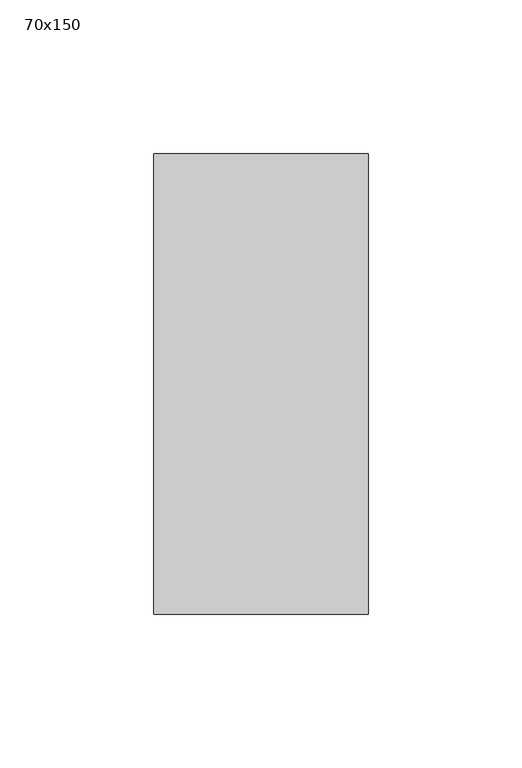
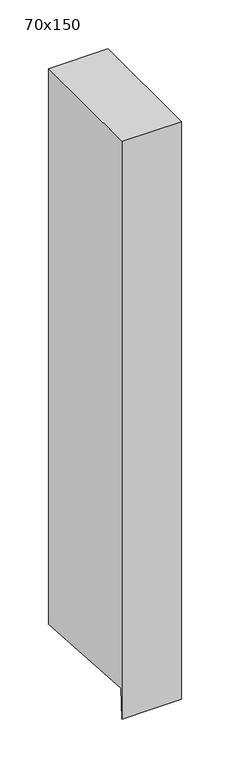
"""IFC4 building model written with IfcOpenShell, lengths in millimetres: member geometry, 長方形のマリオン : 70x150."""

from ifc_helpers import new_model, si_unit, origin, place, context, project, spatial, faceted_brep, source, transform, mapped, element, save


def member_70x150_57855d24(model_context):
    return source(origin(), model_context, "Body", "Brep", [
        faceted_brep([(35.0, 75.0, 0.0), (-35.0, 75.0, 0.0), (-35.0, -75.0, 0.0), (35.0, -75.0, 0.0), (35.0, 75.0, -693.5137706), (0.0, 75.0, -693.5137706), (-35.0, 75.0, -693.5137706), (-35.0, -72.5739814, -683.929387), (-35.0, -75.0, -721.2836128), (0.0, -75.0, -721.2836128), (35.0, -75.0, -721.2836128), (35.0, -72.5739814, -683.929387), (0.0, -72.5739814, -683.929387)], [[[0, 1, 2, 3]], [[1, 0, 4, 5, 6]], [[2, 1, 6, 7, 8]], [[3, 2, 8, 9, 10]], [[0, 3, 10, 11, 4]], [[4, 11, 12, 5]], [[11, 10, 9, 12]], [[9, 8, 7, 12]], [[7, 6, 5, 12]]]),
    ])


if __name__ == "__main__":
    model = new_model("IFC4")
    model_context = context("Model", 3, world=origin())
    ifc_project = project(units=[si_unit("LENGTHUNIT", "METRE", prefix="MILLI")], contexts=[model_context])
    site = spatial("IfcSite", under=ifc_project)
    building = spatial("IfcBuilding", under=site)
    placement = place(None, origin())
    member_70x150_shape = member_70x150_57855d24(model_context)
    element("IfcMember", 1, ObjectType="長方形のマリオン : 70x150", at=placement, inside=building, context=model_context, shape_type="MappedRepresentation", body=[
        mapped(member_70x150_shape, transform((0.0, 0.0, 0.0), x_axis=(1.0, 0.0, 0.0), y_axis=(0.0, 1.0, 0.0), z_axis=(0.0, 0.0, 1.0))),
    ])
    save(model, "model.ifc")
